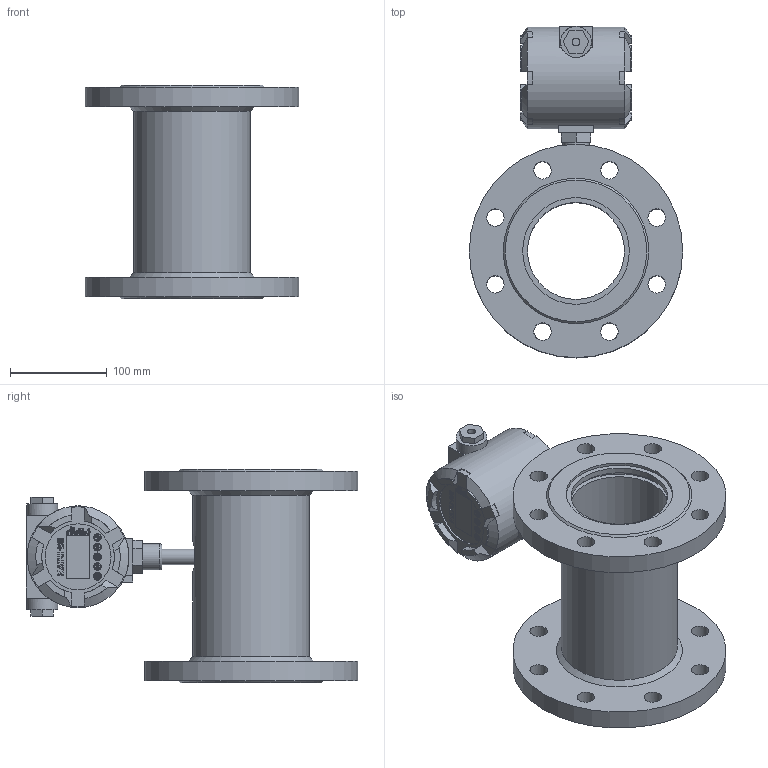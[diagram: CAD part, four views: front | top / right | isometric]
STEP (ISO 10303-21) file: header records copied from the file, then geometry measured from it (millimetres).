
FILE_DESCRIPTION( (''), '2;1');
FILE_NAME( 'QTKC_DN100_flange_Ex.step', '2024-10-14T10:33:42+08:00', (''), (''), '', '', '');
FILE_SCHEMA (('AUTOMOTIVE_DESIGN { 1 0 10303 214 3 1 1 1 }'));
Length unit declared in the file: millimetre
Products named in the file (1): QTKC DN100_flange_Ex
Bounding box: 220 x 342 x 220 mm (x, y, z)
Volume: 2698789 mm3; surface area: 371565.8 mm2
Topology: 4 solids, 4 shells, 1345 faces, 3692 edges, 2464 vertices
Faces by surface type: plane 728, extrusion 504, cylinder 88, cone 17, torus 6, bspline 2
Full cylindrical faces by diameter (mm): 3.3 x1, 8 x2, 16 x1, 16.5 x1, 18 x16, 18.5 x1, 20 x2, 27 x1, 32 x2, 68 x1, 100 x3, 105 x1, 110 x4, 120 x1, 220 x2
Entity records: 44730 total; most frequent: CARTESIAN_POINT 12771, ORIENTED_EDGE 7210, DIRECTION 4917, EDGE_CURVE 3605, VECTOR 2783, VERTEX_POINT 2428, LINE 2279, B_SPLINE_CURVE_WITH_KNOTS 1603
